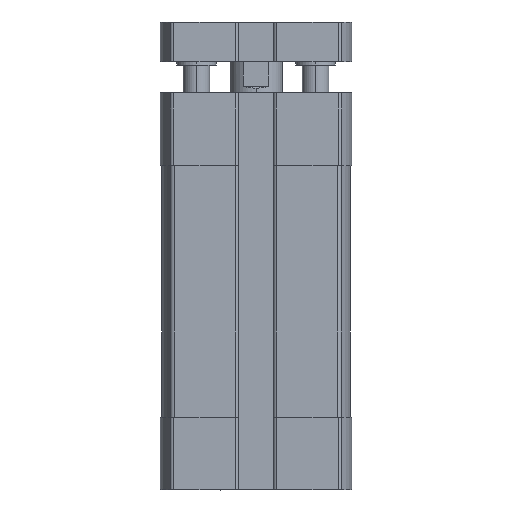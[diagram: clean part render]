
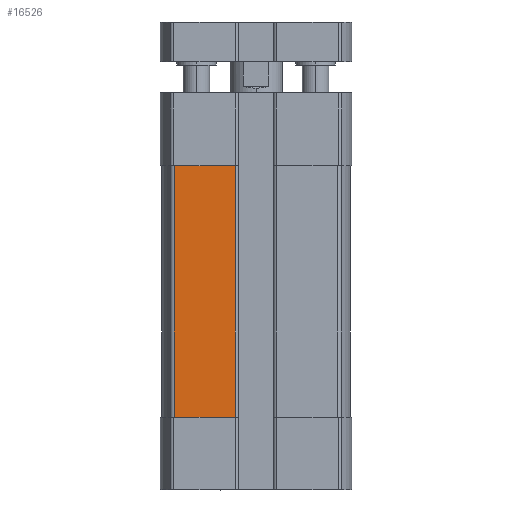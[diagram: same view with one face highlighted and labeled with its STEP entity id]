
A CAD part, front view. The second image highlights one B-rep face of the part: STEP entity #16526.
In plain terms, the highlighted planar face has unit normal (0, -1, 0) as drawn and (-1, 0, 0) by its records, which use the part's own axes.
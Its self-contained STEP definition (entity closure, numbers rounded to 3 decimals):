
#151 = VERTEX_POINT ( 'NONE', #6776 ) ;
#221 = CARTESIAN_POINT ( 'NONE',  ( -14.25, 12.347, -49. ) ) ;
#672 = VERTEX_POINT ( 'NONE', #13040 ) ;
#2635 = LINE ( 'NONE', #12410, #14410 ) ;
#2828 = VERTEX_POINT ( 'NONE', #5257 ) ;
#2988 = EDGE_LOOP ( 'NONE', ( #10193, #4381, #7378, #7772 ) ) ;
#3076 = PLANE ( 'NONE',  #8823 ) ;
#3168 = CARTESIAN_POINT ( 'NONE',  ( -14.25, 3.1, -49. ) ) ;
#3774 = CARTESIAN_POINT ( 'NONE',  ( -14.25, 0., -11. ) ) ;
#4118 = DIRECTION ( 'NONE',  ( 0., -1., 0. ) ) ;
#4370 = CARTESIAN_POINT ( 'NONE',  ( -14.25, 3.1, -49. ) ) ;
#4381 = ORIENTED_EDGE ( 'NONE', *, *, #10407, .T. ) ;
#4441 = DIRECTION ( 'NONE',  ( 0., 0., 1. ) ) ;
#4549 = DIRECTION ( 'NONE',  ( 0., 0., -1. ) ) ;
#5257 = CARTESIAN_POINT ( 'NONE',  ( -14.25, 3.1, -11. ) ) ;
#6415 = VECTOR ( 'NONE', #4118, 1000. ) ;
#6574 = VECTOR ( 'NONE', #14904, 1000. ) ;
#6665 = LINE ( 'NONE', #3774, #15524 ) ;
#6776 = CARTESIAN_POINT ( 'NONE',  ( -14.25, 12.347, -49. ) ) ;
#7378 = ORIENTED_EDGE ( 'NONE', *, *, #17272, .T. ) ;
#7772 = ORIENTED_EDGE ( 'NONE', *, *, #9842, .T. ) ;
#8823 = AXIS2_PLACEMENT_3D ( 'NONE', #221, #12282, #4441 ) ;
#9027 = DIRECTION ( 'NONE',  ( 0., 1., 0. ) ) ;
#9842 = EDGE_CURVE ( 'NONE', #672, #151, #2635, .T. ) ;
#10193 = ORIENTED_EDGE ( 'NONE', *, *, #14284, .T. ) ;
#10407 = EDGE_CURVE ( 'NONE', #17037, #2828, #13534, .T. ) ;
#12282 = DIRECTION ( 'NONE',  ( -1., 0., 0. ) ) ;
#12410 = CARTESIAN_POINT ( 'NONE',  ( -14.25, 12.347, -49. ) ) ;
#13040 = CARTESIAN_POINT ( 'NONE',  ( -14.25, 12.347, -11. ) ) ;
#13314 = CARTESIAN_POINT ( 'NONE',  ( -14.25, 12.347, -49. ) ) ;
#13534 = LINE ( 'NONE', #4370, #6574 ) ;
#14284 = EDGE_CURVE ( 'NONE', #151, #17037, #16494, .T. ) ;
#14410 = VECTOR ( 'NONE', #4549, 1000. ) ;
#14904 = DIRECTION ( 'NONE',  ( 0., 0., 1. ) ) ;
#15524 = VECTOR ( 'NONE', #9027, 1000. ) ;
#16494 = LINE ( 'NONE', #13314, #6415 ) ;
#16526 = ADVANCED_FACE ( 'NONE', ( #17195 ), #3076, .T. ) ;
#17037 = VERTEX_POINT ( 'NONE', #3168 ) ;
#17195 = FACE_OUTER_BOUND ( 'NONE', #2988, .T. ) ;
#17272 = EDGE_CURVE ( 'NONE', #2828, #672, #6665, .T. ) ;
